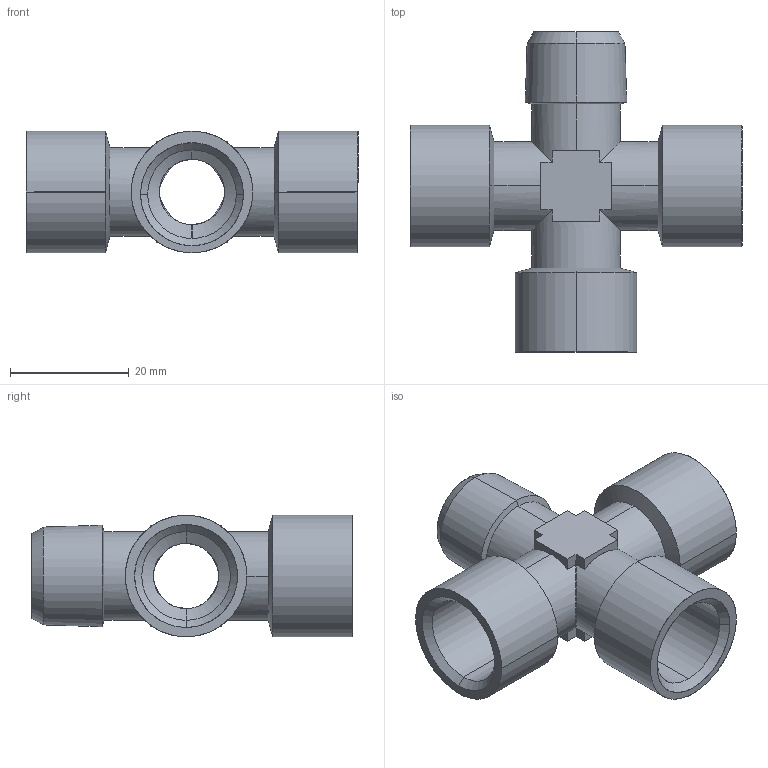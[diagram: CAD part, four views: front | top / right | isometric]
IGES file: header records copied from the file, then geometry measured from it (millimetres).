
Start section: SolidWorks IGES file using analytic representation for surfaces
Global section: file name: K:\Disegni Esecutivi\Accessori\6025\ASSIEMI_.IGES_6025\0602500010400.IGS; native system: SolidWorks 2007; preprocessor: SolidWorks 2007; author: cad02; date: 071024.145228; units: millimetre
Bounding box: 56 x 54 x 20.5 mm (x, y, z)
Surface area: 9963.3 mm2 (no closed solid volume)
Topology: 0 solids, 0 shells, 84 faces, 928 edges, 928 vertices
Faces by surface type: revolution 54, bspline 30
